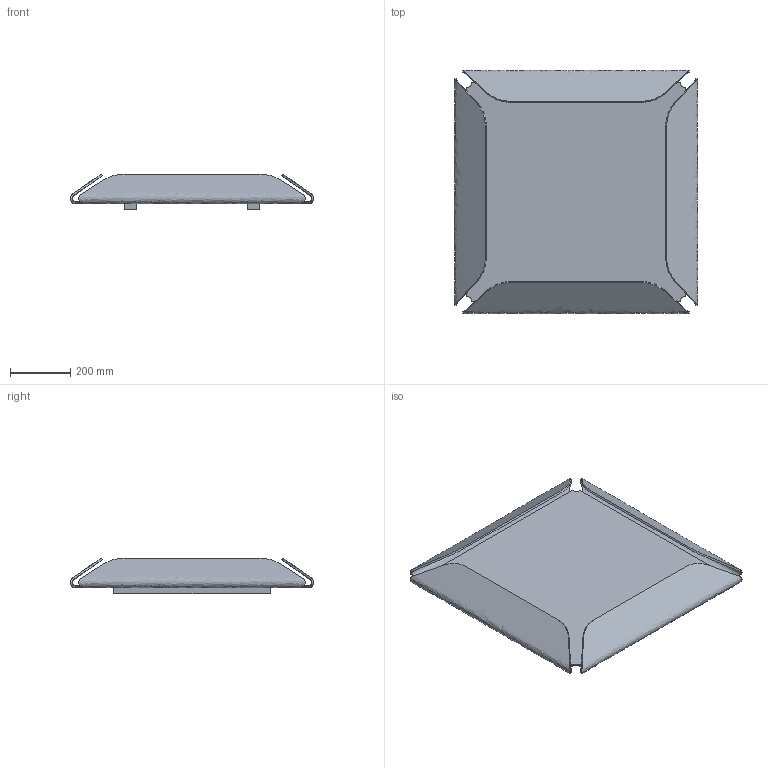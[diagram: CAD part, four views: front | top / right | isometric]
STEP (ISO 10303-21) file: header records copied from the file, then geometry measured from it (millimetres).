
FILE_DESCRIPTION(/* description */ (''),/* implementation_level */ '2;1');
FILE_NAME(/* name */ '341 - Gallery Square 81x81',/* time_stamp */ '2010-11-02T14:41:38+01:00',/* author */ (''),/* organization */ (''),/* preprocessor_version */ 'ST-DEVELOPER v10',/* originating_system */ '',/* authorisation */ '');
FILE_SCHEMA (('CONFIG_CONTROL_DESIGN'));
Length unit declared in the file: centimetre
Products named in the file (1): 1
Bounding box: 810 x 810 x 119.18 mm (x, y, z)
Volume: 7160351.4 mm3; surface area: 2559479.6 mm2
Topology: 7 solids, 7 shells, 102 faces, 264 edges, 176 vertices
Faces by surface type: bspline 84, plane 18
Entity records: 3604 total; most frequent: CARTESIAN_POINT 1892, ORIENTED_EDGE 528, EDGE_CURVE 264, B_SPLINE_CURVE_WITH_KNOTS 208, VERTEX_POINT 176, EDGE_LOOP 110, ADVANCED_FACE 102, FACE_OUTER_BOUND 102
